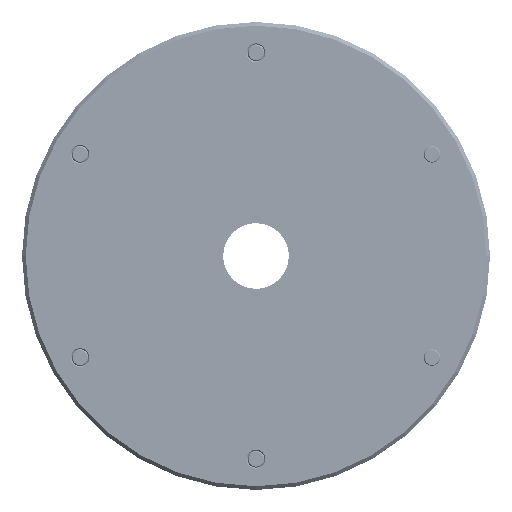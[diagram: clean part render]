
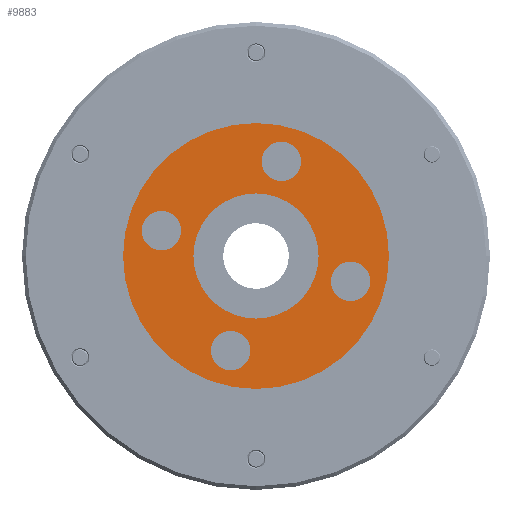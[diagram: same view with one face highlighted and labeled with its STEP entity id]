
A CAD part, front view. The second image highlights one B-rep face of the part: STEP entity #9883.
In plain terms, the highlighted planar face has unit normal (0, -1, 0).
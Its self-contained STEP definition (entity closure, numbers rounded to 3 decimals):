
#1145 = DIRECTION ( 'NONE',  ( 0., -1., 0. ) ) ;
#1765 = AXIS2_PLACEMENT_3D ( 'NONE', #71993, #118246, #34785 ) ;
#2105 = EDGE_CURVE ( 'NONE', #67984, #67925, #87724, .T. ) ;
#2348 = AXIS2_PLACEMENT_3D ( 'NONE', #129210, #82854, #25190 ) ;
#2386 = DIRECTION ( 'NONE',  ( 0.866, 0., 0.5 ) ) ;
#2720 = AXIS2_PLACEMENT_3D ( 'NONE', #130217, #71786, #71031 ) ;
#3874 = CARTESIAN_POINT ( 'NONE',  ( 63.618, -556.1, 63.553 ) ) ;
#3954 = AXIS2_PLACEMENT_3D ( 'NONE', #3874, #14468, #2386 ) ;
#4130 = EDGE_LOOP ( 'NONE', ( #86273, #11740 ) ) ;
#5228 = CARTESIAN_POINT ( 'NONE',  ( -13.175, -556.1, 84.13 ) ) ;
#6575 = VERTEX_POINT ( 'NONE', #75552 ) ;
#7133 = CARTESIAN_POINT ( 'NONE',  ( 70.548, -556.1, 67.553 ) ) ;
#9883 = ADVANCED_FACE ( 'NONE', ( #13279, #82340, #58893, #57406, #68766, #103716 ), #37637, .T. ) ;
#11740 = ORIENTED_EDGE ( 'NONE', *, *, #55767, .F. ) ;
#12839 = CIRCLE ( 'NONE', #141336, 53.975 ) ;
#13279 = FACE_BOUND ( 'NONE', #51412, .T. ) ;
#14468 = DIRECTION ( 'NONE',  ( 0., -1., 0. ) ) ;
#14521 = VERTEX_POINT ( 'NONE', #128989 ) ;
#17253 = EDGE_CURVE ( 'NONE', #99728, #148908, #131190, .T. ) ;
#20700 = ORIENTED_EDGE ( 'NONE', *, *, #34649, .F. ) ;
#22797 = DIRECTION ( 'NONE',  ( 0.866, 0., 0.5 ) ) ;
#23180 = ORIENTED_EDGE ( 'NONE', *, *, #2105, .F. ) ;
#23879 = DIRECTION ( 'NONE',  ( 0.866, 0., 0.5 ) ) ;
#23954 = EDGE_LOOP ( 'NONE', ( #20700, #101832 ) ) ;
#25190 = DIRECTION ( 'NONE',  ( 0.866, 0., 0.5 ) ) ;
#25689 = VERTEX_POINT ( 'NONE', #69505 ) ;
#26860 = DIRECTION ( 'NONE',  ( 0.866, 0., 0.5 ) ) ;
#29569 = AXIS2_PLACEMENT_3D ( 'NONE', #133319, #79275, #23879 ) ;
#32953 = VERTEX_POINT ( 'NONE', #134930 ) ;
#34185 = CARTESIAN_POINT ( 'NONE',  ( 35.51, -556.1, 112.238 ) ) ;
#34649 = EDGE_CURVE ( 'NONE', #148908, #99728, #128373, .T. ) ;
#34785 = DIRECTION ( 'NONE',  ( 0.866, 0., 0.5 ) ) ;
#34968 = VERTEX_POINT ( 'NONE', #143425 ) ;
#37637 = PLANE ( 'NONE',  #2720 ) ;
#38662 = EDGE_CURVE ( 'NONE', #112225, #14521, #62356, .T. ) ;
#40213 = DIRECTION ( 'NONE',  ( 0.866, 0., 0.5 ) ) ;
#40755 = EDGE_LOOP ( 'NONE', ( #117750, #49392 ) ) ;
#41045 = EDGE_CURVE ( 'NONE', #67925, #67984, #110282, .T. ) ;
#41592 = EDGE_CURVE ( 'NONE', #32953, #86495, #61934, .T. ) ;
#42386 = DIRECTION ( 'NONE',  ( 0.866, 0., 0.5 ) ) ;
#46285 = DIRECTION ( 'NONE',  ( 0.866, 0., 0.5 ) ) ;
#47236 = EDGE_LOOP ( 'NONE', ( #23180, #55053 ) ) ;
#47903 = EDGE_LOOP ( 'NONE', ( #91149, #94875 ) ) ;
#48751 = AXIS2_PLACEMENT_3D ( 'NONE', #130163, #1145, #83823 ) ;
#49392 = ORIENTED_EDGE ( 'NONE', *, *, #137338, .F. ) ;
#50444 = CARTESIAN_POINT ( 'NONE',  ( 25.222, -556.1, 73.841 ) ) ;
#51412 = EDGE_LOOP ( 'NONE', ( #63913, #75290 ) ) ;
#55053 = ORIENTED_EDGE ( 'NONE', *, *, #41045, .F. ) ;
#55767 = EDGE_CURVE ( 'NONE', #14521, #112225, #120231, .T. ) ;
#57406 = FACE_BOUND ( 'NONE', #47236, .T. ) ;
#58893 = FACE_BOUND ( 'NONE', #4130, .T. ) ;
#59145 = DIRECTION ( 'NONE',  ( 0., -1., 0. ) ) ;
#61934 = CIRCLE ( 'NONE', #95837, 25.4 ) ;
#62356 = CIRCLE ( 'NONE', #1765, 8.001 ) ;
#63913 = ORIENTED_EDGE ( 'NONE', *, *, #126482, .F. ) ;
#64210 = CARTESIAN_POINT ( 'NONE',  ( 47.219, -556.1, 86.541 ) ) ;
#64401 = CARTESIAN_POINT ( 'NONE',  ( 25.222, -556.1, 73.841 ) ) ;
#65866 = CIRCLE ( 'NONE', #92572, 8.001 ) ;
#66304 = CARTESIAN_POINT ( 'NONE',  ( 28.581, -556.1, 108.237 ) ) ;
#67925 = VERTEX_POINT ( 'NONE', #66304 ) ;
#67984 = VERTEX_POINT ( 'NONE', #101207 ) ;
#68766 = FACE_BOUND ( 'NONE', #40755, .T. ) ;
#69505 = CARTESIAN_POINT ( 'NONE',  ( -20.104, -556.1, 80.129 ) ) ;
#71031 = DIRECTION ( 'NONE',  ( 0.866, 0., 0.5 ) ) ;
#71322 = CIRCLE ( 'NONE', #95582, 8.001 ) ;
#71786 = DIRECTION ( 'NONE',  ( 0., -1., 0. ) ) ;
#71993 = CARTESIAN_POINT ( 'NONE',  ( 63.618, -556.1, 63.553 ) ) ;
#74099 = CARTESIAN_POINT ( 'NONE',  ( 21.863, -556.1, 39.445 ) ) ;
#75290 = ORIENTED_EDGE ( 'NONE', *, *, #149166, .F. ) ;
#75500 = CARTESIAN_POINT ( 'NONE',  ( 8.005, -556.1, 31.444 ) ) ;
#75522 = CARTESIAN_POINT ( 'NONE',  ( 25.222, -556.1, 73.841 ) ) ;
#75552 = CARTESIAN_POINT ( 'NONE',  ( -6.246, -556.1, 88.13 ) ) ;
#77728 = DIRECTION ( 'NONE',  ( 0., -1., 0. ) ) ;
#79275 = DIRECTION ( 'NONE',  ( 0., -1., 0. ) ) ;
#80459 = DIRECTION ( 'NONE',  ( 0., -1., 0. ) ) ;
#81016 = AXIS2_PLACEMENT_3D ( 'NONE', #34185, #80459, #22797 ) ;
#82340 = FACE_BOUND ( 'NONE', #23954, .T. ) ;
#82854 = DIRECTION ( 'NONE',  ( 0., -1., 0. ) ) ;
#83823 = DIRECTION ( 'NONE',  ( 0.866, 0., 0.5 ) ) ;
#86273 = ORIENTED_EDGE ( 'NONE', *, *, #38662, .F. ) ;
#86411 = AXIS2_PLACEMENT_3D ( 'NONE', #64401, #100049, #42386 ) ;
#86495 = VERTEX_POINT ( 'NONE', #64210 ) ;
#87724 = CIRCLE ( 'NONE', #29569, 8.001 ) ;
#88579 = AXIS2_PLACEMENT_3D ( 'NONE', #128197, #59145, #46285 ) ;
#89356 = EDGE_CURVE ( 'NONE', #113399, #34968, #132550, .T. ) ;
#91149 = ORIENTED_EDGE ( 'NONE', *, *, #105671, .T. ) ;
#92572 = AXIS2_PLACEMENT_3D ( 'NONE', #5228, #98624, #40213 ) ;
#94875 = ORIENTED_EDGE ( 'NONE', *, *, #89356, .T. ) ;
#95582 = AXIS2_PLACEMENT_3D ( 'NONE', #99651, #96674, #133862 ) ;
#95837 = AXIS2_PLACEMENT_3D ( 'NONE', #50444, #108866, #26860 ) ;
#96674 = DIRECTION ( 'NONE',  ( 0., -1., 0. ) ) ;
#98624 = DIRECTION ( 'NONE',  ( 0., -1., 0. ) ) ;
#99651 = CARTESIAN_POINT ( 'NONE',  ( -13.175, -556.1, 84.13 ) ) ;
#99728 = VERTEX_POINT ( 'NONE', #75500 ) ;
#100049 = DIRECTION ( 'NONE',  ( 0., -1., 0. ) ) ;
#101207 = CARTESIAN_POINT ( 'NONE',  ( 42.439, -556.1, 116.238 ) ) ;
#101832 = ORIENTED_EDGE ( 'NONE', *, *, #17253, .F. ) ;
#103716 = FACE_OUTER_BOUND ( 'NONE', #47903, .T. ) ;
#105671 = EDGE_CURVE ( 'NONE', #34968, #113399, #12839, .T. ) ;
#108866 = DIRECTION ( 'NONE',  ( 0., -1., 0. ) ) ;
#110282 = CIRCLE ( 'NONE', #81016, 8.001 ) ;
#112225 = VERTEX_POINT ( 'NONE', #7133 ) ;
#113399 = VERTEX_POINT ( 'NONE', #148361 ) ;
#117750 = ORIENTED_EDGE ( 'NONE', *, *, #41592, .F. ) ;
#118246 = DIRECTION ( 'NONE',  ( 0., -1., 0. ) ) ;
#120231 = CIRCLE ( 'NONE', #3954, 8.001 ) ;
#126482 = EDGE_CURVE ( 'NONE', #6575, #25689, #65866, .T. ) ;
#128197 = CARTESIAN_POINT ( 'NONE',  ( 25.222, -556.1, 73.841 ) ) ;
#128373 = CIRCLE ( 'NONE', #2348, 8.001 ) ;
#128989 = CARTESIAN_POINT ( 'NONE',  ( 56.689, -556.1, 59.552 ) ) ;
#129210 = CARTESIAN_POINT ( 'NONE',  ( 14.934, -556.1, 35.445 ) ) ;
#130163 = CARTESIAN_POINT ( 'NONE',  ( 14.934, -556.1, 35.445 ) ) ;
#130217 = CARTESIAN_POINT ( 'NONE',  ( 25.222, -556.1, 73.841 ) ) ;
#131190 = CIRCLE ( 'NONE', #48751, 8.001 ) ;
#132550 = CIRCLE ( 'NONE', #86411, 53.975 ) ;
#133319 = CARTESIAN_POINT ( 'NONE',  ( 35.51, -556.1, 112.238 ) ) ;
#133862 = DIRECTION ( 'NONE',  ( 0.866, 0., 0.5 ) ) ;
#134930 = CARTESIAN_POINT ( 'NONE',  ( 3.225, -556.1, 61.141 ) ) ;
#137056 = CIRCLE ( 'NONE', #88579, 25.4 ) ;
#137338 = EDGE_CURVE ( 'NONE', #86495, #32953, #137056, .T. ) ;
#141336 = AXIS2_PLACEMENT_3D ( 'NONE', #75522, #77728, #145419 ) ;
#143425 = CARTESIAN_POINT ( 'NONE',  ( 71.966, -556.1, 100.829 ) ) ;
#145419 = DIRECTION ( 'NONE',  ( 0.866, 0., 0.5 ) ) ;
#148361 = CARTESIAN_POINT ( 'NONE',  ( -21.522, -556.1, 46.854 ) ) ;
#148908 = VERTEX_POINT ( 'NONE', #74099 ) ;
#149166 = EDGE_CURVE ( 'NONE', #25689, #6575, #71322, .T. ) ;
